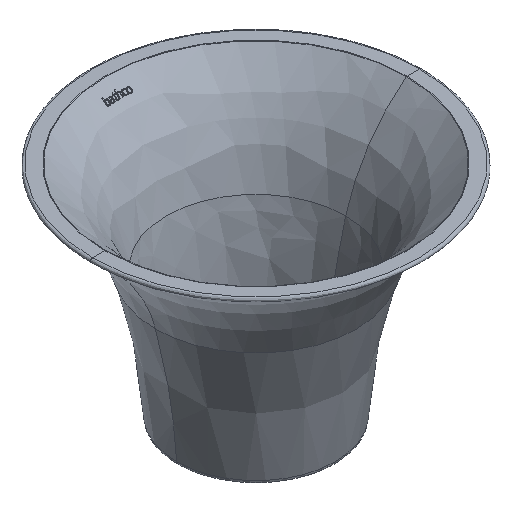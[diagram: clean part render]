
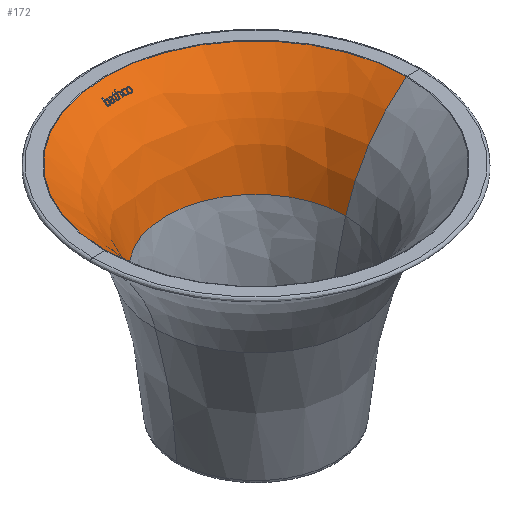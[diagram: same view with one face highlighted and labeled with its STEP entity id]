
A CAD part, isometric view. The second image highlights one B-rep face of the part: STEP entity #172.
In plain terms, the highlighted free-form (B-spline) face has degree [2, 2] with [5, 3] control points.
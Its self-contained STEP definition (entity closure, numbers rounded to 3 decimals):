
#35=(
BOUNDED_CURVE()
B_SPLINE_CURVE(2,(#5377,#5378,#5379),.UNSPECIFIED.,.F.,.F.)
B_SPLINE_CURVE_WITH_KNOTS((3,3),(10.4,114.998),
 .UNSPECIFIED.)
CURVE()
GEOMETRIC_REPRESENTATION_ITEM()
RATIONAL_B_SPLINE_CURVE((1.,0.948,1.))
REPRESENTATION_ITEM('')
);
#172=ADVANCED_FACE('',(#295),#1813,.T.);
#295=FACE_OUTER_BOUND('',#418,.T.);
#418=EDGE_LOOP('',(#920,#921,#922,#923));
#920=ORIENTED_EDGE('',*,*,#1202,.T.);
#921=ORIENTED_EDGE('',*,*,#1148,.T.);
#922=ORIENTED_EDGE('',*,*,#1198,.F.);
#923=ORIENTED_EDGE('',*,*,#1201,.F.);
#1148=EDGE_CURVE('',#1671,#1669,#35,.T.);
#1198=EDGE_CURVE('',#1699,#1669,#1433,.T.);
#1201=EDGE_CURVE('',#1701,#1699,#1435,.T.);
#1202=EDGE_CURVE('',#1701,#1671,#1436,.T.);
#1433=TRIMMED_CURVE($,#1533,(#5549),(#5550),.T.,.CARTESIAN.);
#1435=TRIMMED_CURVE($,#1535,(#5557),(#5558),.T.,.CARTESIAN.);
#1436=TRIMMED_CURVE($,#1536,(#5560),(#5561),.T.,.CARTESIAN.);
#1533=CIRCLE('',#2034,90.82);
#1535=CIRCLE('',#2036,172.016);
#1536=CIRCLE('',#2037,152.231);
#1669=VERTEX_POINT('',#5202);
#1671=VERTEX_POINT('',#5204);
#1699=VERTEX_POINT('',#5232);
#1701=VERTEX_POINT('',#5234);
#1813=(
BOUNDED_SURFACE()
B_SPLINE_SURFACE(2,2,((#5075,#5076,#5077),(#5078,#5079,#5080),(#5081,#5082,
#5083),(#5084,#5085,#5086),(#5087,#5088,#5089)),.UNSPECIFIED.,.F.,.F.,.F.)
B_SPLINE_SURFACE_WITH_KNOTS((3,2,3),(3,3),(478.246,717.37,
956.493),(10.4,114.998),.UNSPECIFIED.)
GEOMETRIC_REPRESENTATION_ITEM()
RATIONAL_B_SPLINE_SURFACE(((1.,0.948,1.),(0.707,
0.67,0.707),(1.,0.948,1.),(0.707,
0.67,0.707),(1.,0.948,1.)))
REPRESENTATION_ITEM('')
SURFACE()
);
#2034=AXIS2_PLACEMENT_3D($,#5548,#2263,#2264);
#2036=AXIS2_PLACEMENT_3D($,#5556,#2267,#2268);
#2037=AXIS2_PLACEMENT_3D($,#5559,#2269,#2270);
#2263=DIRECTION('',(0.,0.,1.));
#2264=DIRECTION('',(1.,0.,0.));
#2267=DIRECTION('',(0.,-1.,0.));
#2268=DIRECTION('',(-0.607,0.,0.794));
#2269=DIRECTION('',(0.,0.,1.));
#2270=DIRECTION('',(1.,0.,0.));
#5075=CARTESIAN_POINT('',(913.142,0.,-5.036));
#5076=CARTESIAN_POINT('',(867.064,0.,-40.269));
#5077=CARTESIAN_POINT('',(851.731,0.,-96.211));
#5078=CARTESIAN_POINT('',(913.142,152.231,-5.036));
#5079=CARTESIAN_POINT('',(867.064,106.152,-40.269));
#5080=CARTESIAN_POINT('',(851.731,90.819,-96.211));
#5081=CARTESIAN_POINT('',(760.911,152.231,-5.036));
#5082=CARTESIAN_POINT('',(760.911,106.152,-40.269));
#5083=CARTESIAN_POINT('',(760.911,90.819,-96.211));
#5084=CARTESIAN_POINT('',(608.681,152.231,-5.036));
#5085=CARTESIAN_POINT('',(654.759,106.152,-40.269));
#5086=CARTESIAN_POINT('',(670.092,90.819,-96.211));
#5087=CARTESIAN_POINT('',(608.681,0.,-5.036));
#5088=CARTESIAN_POINT('',(654.759,0.,-40.269));
#5089=CARTESIAN_POINT('',(670.092,0.,-96.211));
#5202=CARTESIAN_POINT('',(670.092,0.,-96.21));
#5204=CARTESIAN_POINT('',(608.681,0.,-5.036));
#5232=CARTESIAN_POINT('',(851.731,0.,-96.21));
#5234=CARTESIAN_POINT('',(913.142,0.,-5.036));
#5377=CARTESIAN_POINT('',(608.681,0.,-5.036));
#5378=CARTESIAN_POINT('',(654.759,0.,-40.269));
#5379=CARTESIAN_POINT('',(670.092,0.,-96.21));
#5548=CARTESIAN_POINT('',(760.912,0.,-96.21));
#5549=CARTESIAN_POINT('',(851.731,0.,-96.21));
#5550=CARTESIAN_POINT('',(670.092,0.,-96.21));
#5556=CARTESIAN_POINT('',(1017.628,0.,-141.682));
#5557=CARTESIAN_POINT('',(913.142,0.,-5.036));
#5558=CARTESIAN_POINT('',(851.731,0.,-96.21));
#5559=CARTESIAN_POINT('',(760.911,0.,-5.036));
#5560=CARTESIAN_POINT('',(913.142,0.,-5.036));
#5561=CARTESIAN_POINT('',(608.681,0.,-5.036));
